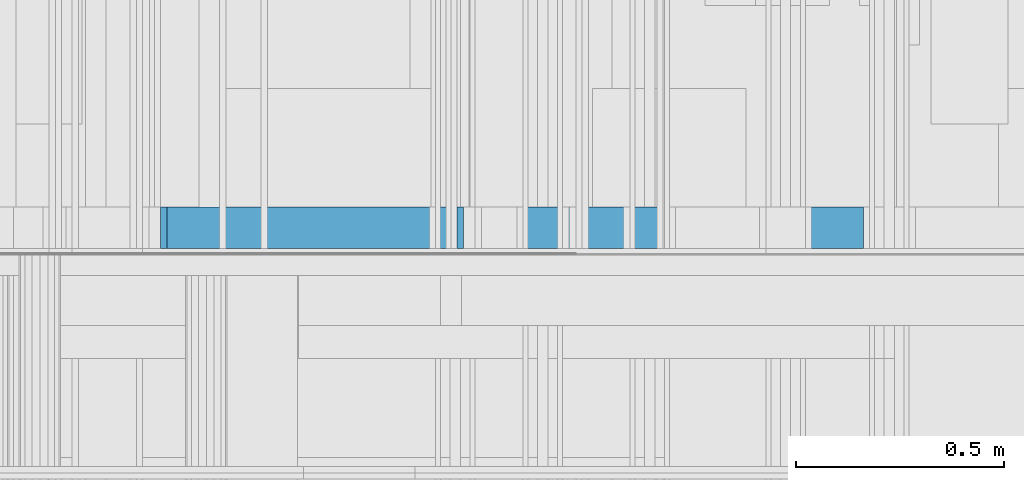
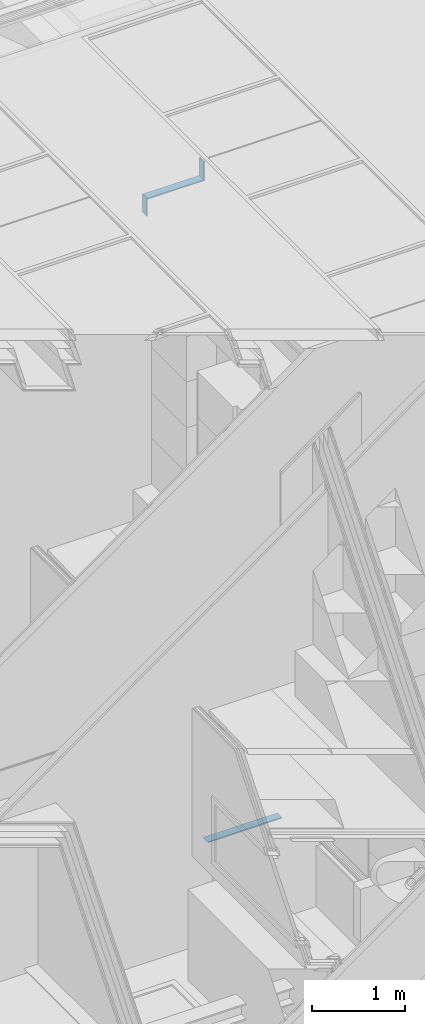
# One storey, part 231 of 583: 4 building element parts, 4 elements without a shape of their own.
"""IFC2X3 building model written with IfcOpenShell, lengths in metres."""

from ifc_helpers import new_model, entity, si_unit, converted_unit, derived_unit, money_unit, direction, frame, origin_with_axes, place, context, subcontext, project, spatial, polyline, outline, extrude, material, type_object, element, aggregate, save


model = new_model("IFC2X3")

# Units and contexts
model_context = context("Model", 3, precision=1e-05, world=origin_with_axes(), true_north=direction((0.0, 1.0)))
body_context = subcontext(model_context, "Body", "Model", "MODEL_VIEW", scale=1.0)
ifc_project = project(units=[si_unit("LENGTHUNIT", "METRE"), si_unit("AREAUNIT", "SQUARE_METRE"), si_unit("VOLUMEUNIT", "CUBIC_METRE"), si_unit("ABSORBEDDOSEUNIT", "GRAY"), si_unit("AMOUNTOFSUBSTANCEUNIT", "MOLE"), si_unit("DOSEEQUIVALENTUNIT", "SIEVERT"), si_unit("ELECTRICCAPACITANCEUNIT", "FARAD"), si_unit("ELECTRICCHARGEUNIT", "COULOMB"), si_unit("ELECTRICCONDUCTANCEUNIT", "SIEMENS"), si_unit("ELECTRICCURRENTUNIT", "AMPERE"), si_unit("ELECTRICRESISTANCEUNIT", "OHM"), si_unit("ELECTRICVOLTAGEUNIT", "VOLT"), si_unit("ENERGYUNIT", "JOULE"), si_unit("FORCEUNIT", "NEWTON"), si_unit("FREQUENCYUNIT", "HERTZ"), si_unit("ILLUMINANCEUNIT", "LUX"), si_unit("INDUCTANCEUNIT", "HENRY"), si_unit("LUMINOUSFLUXUNIT", "LUMEN"), si_unit("LUMINOUSINTENSITYUNIT", "CANDELA"), si_unit("MAGNETICFLUXDENSITYUNIT", "TESLA"), si_unit("MAGNETICFLUXUNIT", "WEBER"), si_unit("MASSUNIT", "GRAM"), converted_unit("PLANEANGLEUNIT", "degree", entity("IfcReal", 0.0174532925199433), si_unit("PLANEANGLEUNIT", "RADIAN"), dimensions=[0, 0, 0, 0, 0, 0, 0]), si_unit("POWERUNIT", "WATT"), si_unit("PRESSUREUNIT", "PASCAL"), si_unit("RADIOACTIVITYUNIT", "BECQUEREL"), si_unit("SOLIDANGLEUNIT", "STERADIAN"), si_unit("THERMODYNAMICTEMPERATUREUNIT", "KELVIN"), si_unit("TIMEUNIT", "SECOND"), derived_unit("ACCELERATIONUNIT", [(si_unit("LENGTHUNIT", "METRE"), 1), (si_unit("TIMEUNIT", "SECOND"), -2)]), derived_unit("ANGULARVELOCITYUNIT", [(converted_unit("PLANEANGLEUNIT", "degree", entity("IfcReal", 0.0174532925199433), si_unit("PLANEANGLEUNIT", "RADIAN"), dimensions=[0, 0, 0, 0, 0, 0, 0]), 1), (si_unit("TIMEUNIT", "SECOND"), -1)]), derived_unit("CURVATUREUNIT", [(converted_unit("PLANEANGLEUNIT", "degree", entity("IfcReal", 0.0174532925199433), si_unit("PLANEANGLEUNIT", "RADIAN"), dimensions=[0, 0, 0, 0, 0, 0, 0]), 1), (si_unit("LENGTHUNIT", "METRE"), -1)]), derived_unit("DYNAMICVISCOSITYUNIT", [(si_unit("PRESSUREUNIT", "PASCAL"), 1), (si_unit("TIMEUNIT", "SECOND"), 1)]), derived_unit("HEATFLUXDENSITYUNIT", [(si_unit("POWERUNIT", "WATT"), 1), (si_unit("LENGTHUNIT", "METRE"), -2)]), derived_unit("HEATINGVALUEUNIT", [(si_unit("ENERGYUNIT", "JOULE"), 1), (si_unit("MASSUNIT", "GRAM"), -1)]), derived_unit("INTEGERCOUNTRATEUNIT", [(si_unit("TIMEUNIT", "SECOND"), -1)]), derived_unit("IONCONCENTRATIONUNIT", [(si_unit("MASSUNIT", "GRAM"), 1), (si_unit("VOLUMEUNIT", "CUBIC_METRE"), -1)]), derived_unit("ISOTHERMALMOISTURECAPACITYUNIT", [(si_unit("VOLUMEUNIT", "CUBIC_METRE"), 1), (si_unit("MASSUNIT", "GRAM"), -1)]), derived_unit("KINEMATICVISCOSITYUNIT", [(si_unit("AREAUNIT", "SQUARE_METRE"), 1), (si_unit("TIMEUNIT", "SECOND"), -1)]), derived_unit("LINEARFORCEUNIT", [(si_unit("FORCEUNIT", "NEWTON"), 1), (si_unit("LENGTHUNIT", "METRE"), -1)]), derived_unit("LINEARMOMENTUNIT", [(si_unit("FORCEUNIT", "NEWTON"), 1), (si_unit("LENGTHUNIT", "METRE"), -1)]), derived_unit("LINEARSTIFFNESSUNIT", [(si_unit("FORCEUNIT", "NEWTON"), 1), (si_unit("LENGTHUNIT", "METRE"), -1)]), derived_unit("LINEARVELOCITYUNIT", [(si_unit("LENGTHUNIT", "METRE"), 1), (si_unit("TIMEUNIT", "SECOND"), -1)]), derived_unit("LUMINOUSINTENSITYDISTRIBUTIONUNIT", [(si_unit("LUMINOUSINTENSITYUNIT", "CANDELA"), 1), (si_unit("LUMINOUSFLUXUNIT", "LUMEN"), -1)]), derived_unit("MASSDENSITYUNIT", [(si_unit("MASSUNIT", "GRAM"), 1), (si_unit("VOLUMEUNIT", "CUBIC_METRE"), -1)]), derived_unit("MASSFLOWRATEUNIT", [(si_unit("MASSUNIT", "GRAM"), 1), (si_unit("TIMEUNIT", "SECOND"), -1)]), derived_unit("MASSPERLENGTHUNIT", [(si_unit("MASSUNIT", "GRAM"), 1), (si_unit("LENGTHUNIT", "METRE"), -1)]), derived_unit("MODULUSOFELASTICITYUNIT", [(si_unit("FORCEUNIT", "NEWTON"), 1), (si_unit("AREAUNIT", "SQUARE_METRE"), -1)]), derived_unit("MODULUSOFLINEARSUBGRADEREACTIONUNIT", [(si_unit("FORCEUNIT", "NEWTON"), 1), (si_unit("LENGTHUNIT", "METRE"), -2)]), derived_unit("MODULUSOFROTATIONALSUBGRADEREACTIONUNIT", [(si_unit("FORCEUNIT", "NEWTON"), 1), (si_unit("LENGTHUNIT", "METRE"), 1)]), derived_unit("MODULUSOFSUBGRADEREACTIONUNIT", [(si_unit("FORCEUNIT", "NEWTON"), 1), (si_unit("VOLUMEUNIT", "CUBIC_METRE"), -1)]), derived_unit("MOISTUREDIFFUSIVITYUNIT", [(si_unit("VOLUMEUNIT", "CUBIC_METRE"), 1), (si_unit("TIMEUNIT", "SECOND"), -1)]), derived_unit("MOLECULARWEIGHTUNIT", [(si_unit("MASSUNIT", "GRAM"), 1), (si_unit("AMOUNTOFSUBSTANCEUNIT", "MOLE"), -1)]), derived_unit("PLANARFORCEUNIT", [(si_unit("FORCEUNIT", "NEWTON"), 1), (si_unit("LENGTHUNIT", "METRE"), -2)]), derived_unit("ROTATIONALFREQUENCYUNIT", [(si_unit("TIMEUNIT", "SECOND"), -1)]), derived_unit("ROTATIONALMASSUNIT", [(si_unit("MASSUNIT", "GRAM"), 1), (si_unit("LENGTHUNIT", "METRE"), 2)]), derived_unit("ROTATIONALSTIFFNESSUNIT", [(si_unit("FORCEUNIT", "NEWTON"), 1), (si_unit("LENGTHUNIT", "METRE"), 1), (converted_unit("PLANEANGLEUNIT", "degree", entity("IfcReal", 0.0174532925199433), si_unit("PLANEANGLEUNIT", "RADIAN"), dimensions=[0, 0, 0, 0, 0, 0, 0]), -1)]), derived_unit("SECTIONAREAINTEGRALUNIT", [(si_unit("LENGTHUNIT", "METRE"), 5)]), derived_unit("SECTIONMODULUSUNIT", [(si_unit("LENGTHUNIT", "METRE"), 3)]), derived_unit("SHEARMODULUSUNIT", [(si_unit("FORCEUNIT", "NEWTON"), 1), (si_unit("AREAUNIT", "SQUARE_METRE"), -1)]), derived_unit("SOUNDPOWERUNIT", [(si_unit("ENERGYUNIT", "JOULE"), 1), (si_unit("TIMEUNIT", "SECOND"), -1)]), derived_unit("SPECIFICHEATCAPACITYUNIT", [(si_unit("FORCEUNIT", "NEWTON"), 1), (si_unit("MASSUNIT", "GRAM"), -1), (si_unit("THERMODYNAMICTEMPERATUREUNIT", "KELVIN"), -1)]), derived_unit("TEMPERATUREGRADIENTUNIT", [(si_unit("THERMODYNAMICTEMPERATUREUNIT", "KELVIN"), 1), (si_unit("LENGTHUNIT", "METRE"), -1)]), derived_unit("THERMALADMITTANCEUNIT", [(si_unit("POWERUNIT", "WATT"), 1), (si_unit("AREAUNIT", "SQUARE_METRE"), -1), (si_unit("THERMODYNAMICTEMPERATUREUNIT", "KELVIN"), -1)]), derived_unit("THERMALCONDUCTANCEUNIT", [(si_unit("POWERUNIT", "WATT"), 1), (si_unit("LENGTHUNIT", "METRE"), -1), (si_unit("THERMODYNAMICTEMPERATUREUNIT", "KELVIN"), -1)]), derived_unit("THERMALEXPANSIONCOEFFICIENTUNIT", [(si_unit("THERMODYNAMICTEMPERATUREUNIT", "KELVIN"), -1)]), derived_unit("THERMALRESISTANCEUNIT", [(si_unit("AREAUNIT", "SQUARE_METRE"), 1), (si_unit("POWERUNIT", "WATT"), -1)]), derived_unit("THERMALTRANSMITTANCEUNIT", [(si_unit("POWERUNIT", "WATT"), 1), (si_unit("AREAUNIT", "SQUARE_METRE"), -1), (si_unit("THERMODYNAMICTEMPERATUREUNIT", "KELVIN"), -1)]), derived_unit("TORQUEUNIT", [(si_unit("FORCEUNIT", "NEWTON"), 1), (si_unit("LENGTHUNIT", "METRE"), 1)]), derived_unit("VAPORPERMEABILITYUNIT", [(si_unit("MASSUNIT", "GRAM"), 1), (si_unit("TIMEUNIT", "SECOND"), -1)]), derived_unit("VOLUMETRICFLOWRATEUNIT", [(si_unit("VOLUMEUNIT", "CUBIC_METRE"), 1), (si_unit("TIMEUNIT", "SECOND"), -1)]), derived_unit("WARPINGCONSTANTUNIT", [(si_unit("LENGTHUNIT", "METRE"), 6)]), derived_unit("WARPINGMOMENTUNIT", [(si_unit("FORCEUNIT", "NEWTON"), 1), (si_unit("LENGTHUNIT", "METRE"), 2)]), money_unit("GBP")], contexts=[model_context])

# Site, building, storey
site_placement = place(None, origin_with_axes())
site = spatial("IfcSite", under=ifc_project, at=site_placement, Name="Site", CompositionType="ELEMENT")
building_placement = place(site_placement, origin_with_axes())
building = spatial("IfcBuilding", under=site, at=building_placement, Name="Building01", CompositionType="ELEMENT")
storey_placement = place(building_placement, frame((0.0, 0.0, 20.78), z_axis=(0.0, 0.0, 1.0), x_axis=(1.0, 0.0, 0.0)))
storey = spatial("IfcBuildingStorey", under=building, at=storey_placement, Name="RL", CompositionType="ELEMENT", Elevation=20.78)

# Wall, building element part
wall_type_1 = type_object("IfcWallType", Name="SHE_A-Walls_Type05a_Partition_95mm_tall", PredefinedType="NOTDEFINED")
wall_1_placement = place(storey_placement, frame((9.585, 12.13, -2.84), z_axis=(0.0, 1.0, 0.0), x_axis=(1.0, 0.0, 0.0)))
wall_1 = element("IfcWall", 1, at=wall_1_placement, inside=storey, type_object=wall_type_1, Name="5A", ObjectType="SHE_A-Walls_Type05a_Partition_95mm_tall")
ifc_material = material(Name="A_BSUK_Walls_Timber")
building_element_part_1_placement = place(wall_1_placement, origin_with_axes())
building_element_part_1 = element("IfcBuildingElementPart", 2, at=building_element_part_1_placement, material=ifc_material, Name="2", context=body_context, shape_type="SweptSolid", body=[
    extrude(outline(polyline([(0.97, 0.05), (0.05, 0.05), (0.035, 0.035), (0.97, 0.035), (0.97, 0.05)])), frame((0.0, 0.0, 0.015), z_axis=(0.0, 0.0, 1.0), x_axis=(1.0, 0.0, 0.0)), (0.0, 0.0, 1.0), 0.1),
])
aggregate(wall_1, [building_element_part_1])

wall_type_2 = type_object("IfcWallType", Name="SHE_A-Walls_Type06f_ExternalWallInsulation_48+15mm", PredefinedType="NOTDEFINED")
wall_2_placement = place(storey_placement, frame((8.8, 12.13, 5.929178), z_axis=(0.0, 1.0, 0.0), x_axis=(0.0, 0.0, 1.0)))
wall_2 = element("IfcWall", 3, at=wall_2_placement, inside=storey, type_object=wall_type_2, Name="6F", ObjectType="SHE_A-Walls_Type06f_ExternalWallInsulation_48+15mm")
building_element_part_2_placement = place(wall_2_placement, origin_with_axes())
building_element_part_2 = element("IfcBuildingElementPart", 4, at=building_element_part_2_placement, material=ifc_material, Name="2", context=body_context, shape_type="SweptSolid", body=[
    extrude(outline(polyline([(-0.292178, 0.063), (-0.063, 0.063), (-0.063, 0.078), (-0.307178, 0.078), (-0.292178, 0.063)])), frame((0.0, 0.0, 0.015), z_axis=(0.0, 0.0, 1.0), x_axis=(1.0, 0.0, 0.0)), (0.0, 0.0, 1.0), 0.1),
])
aggregate(wall_2, [building_element_part_2])

wall_3_placement = place(storey_placement, frame((9.51418, 12.13, 6.099178), z_axis=(0.0, 1.0, 0.0), x_axis=(0.0, 0.0, 1.0)))
wall_3 = element("IfcWall", 5, at=wall_3_placement, inside=storey, type_object=wall_type_2, Name="6F", ObjectType="SHE_A-Walls_Type06f_ExternalWallInsulation_48+15mm")
building_element_part_3_placement = place(wall_3_placement, origin_with_axes())
building_element_part_3 = element("IfcBuildingElementPart", 6, at=building_element_part_3_placement, material=ifc_material, Name="2", context=body_context, shape_type="SweptSolid", body=[
    extrude(outline(polyline([(-0.233, 0.063), (0.0, 0.063), (0.0, 0.078), (-0.248, 0.078), (-0.233, 0.063)])), frame((0.0, 0.0, 0.015), z_axis=(0.0, 0.0, 1.0), x_axis=(1.0, 0.0, 0.0)), (0.0, 0.0, 1.0), 0.1),
])
aggregate(wall_3, [building_element_part_3])

wall_4_placement = place(storey_placement, frame((8.836, 12.13, 5.929178), z_axis=(0.0, 1.0, 0.0), x_axis=(-1.0, 0.0, 0.0)))
wall_4 = element("IfcWall", 7, at=wall_4_placement, inside=storey, type_object=wall_type_2, Name="6F", ObjectType="SHE_A-Walls_Type06f_ExternalWallInsulation_48+15mm")
building_element_part_4_placement = place(wall_4_placement, origin_with_axes())
building_element_part_4 = element("IfcBuildingElementPart", 8, at=building_element_part_4_placement, material=ifc_material, Name="2", context=body_context, shape_type="SweptSolid", body=[
    extrude(outline(polyline([(-0.75618, -0.078), (-0.042, -0.078), (-0.042, -0.063), (-0.74118, -0.063), (-0.75618, -0.078)])), frame((0.0, 0.0, 0.015), z_axis=(0.0, 0.0, 1.0), x_axis=(1.0, 0.0, 0.0)), (0.0, 0.0, 1.0), 0.1),
])
aggregate(wall_4, [building_element_part_4])

save(model, "model.ifc")
